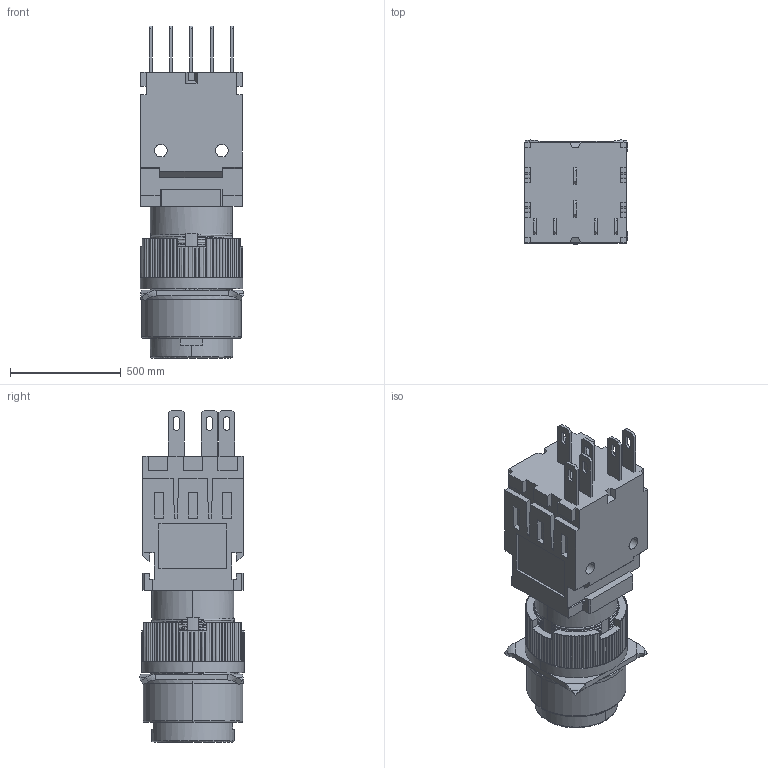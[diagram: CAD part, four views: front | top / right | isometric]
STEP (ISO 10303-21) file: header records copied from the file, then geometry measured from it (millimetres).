
FILE_DESCRIPTION((''),'2;1');
FILE_NAME('ASM0010_ASM','2016-06-03T',('Administrator'),(''),'PRO/ENGINEER BY PARAMETRIC TECHNOLOGY CORPORATION, 2012360','PRO/ENGINEER BY PARAMETRIC TECHNOLOGY CORPORATION, 2012360','');
FILE_SCHEMA(('CONFIG_CONTROL_DESIGN'));
Length unit declared in the file: inch
Products named in the file (1): ASM0010_ASM
Bounding box: 467.82 x 470.6 x 1499.97 mm (x, y, z)
Volume: 209808512.7 mm3; surface area: 4433534.7 mm2
Topology: 1 solids, 1 shells, 908 faces, 2486 edges, 1610 vertices
Faces by surface type: plane 412, cylinder 373, bspline 117, torus 4, sphere 2
Entity records: 46843 total; most frequent: CARTESIAN_POINT 24730, ORIENTED_EDGE 4968, DIRECTION 4097, EDGE_CURVE 2484, VERTEX_POINT 1610, AXIS2_PLACEMENT_3D 1415, VECTOR 1267, LINE 1267
